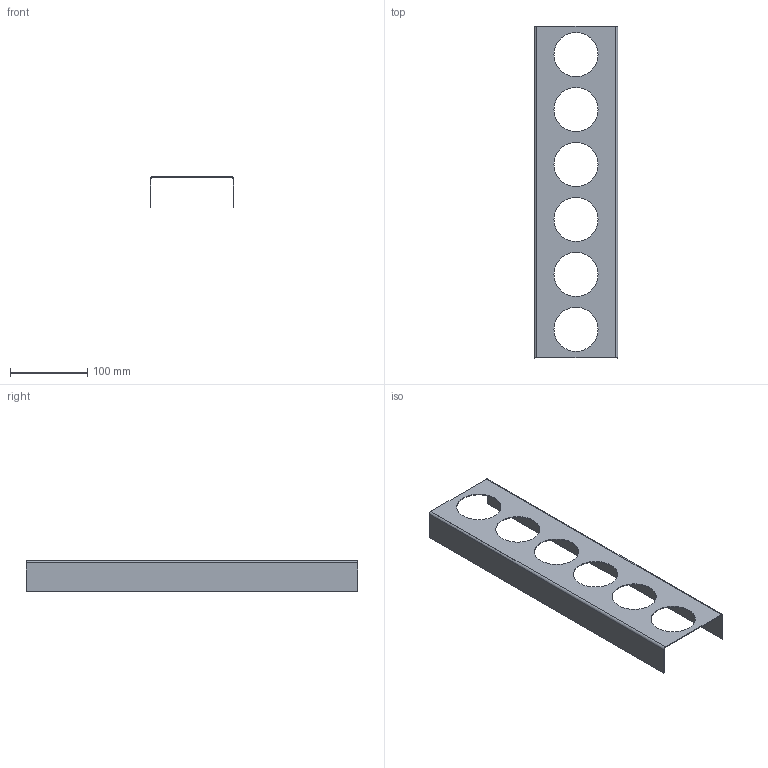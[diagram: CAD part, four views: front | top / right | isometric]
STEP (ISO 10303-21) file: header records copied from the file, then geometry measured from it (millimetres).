
FILE_DESCRIPTION (( 'STEP AP214' ), '1' );
FILE_NAME ('Gewuerzeinsatz_68327-01.STEP', '2010-10-25T13:55:07', ( 'grass' ), ( '' ), 'SwSTEP 2.0', 'SolidWorks 2010', '' );
FILE_SCHEMA (( 'AUTOMOTIVE_DESIGN' ));
Length unit declared in the file: millimetre
Products named in the file (1): Gewuerzeinsatz_68327-01
Bounding box: 108 x 429 x 40 mm (x, y, z)
Volume: 63562.8 mm3; surface area: 129425.7 mm2
Topology: 1 solids, 1 shells, 26 faces, 72 edges, 48 vertices
Faces by surface type: cylinder 16, plane 10
Entity records: 906 total; most frequent: DIRECTION 158, CARTESIAN_POINT 147, ORIENTED_EDGE 144, EDGE_CURVE 72, AXIS2_PLACEMENT_3D 59, VERTEX_POINT 48, VECTOR 40, LINE 40
